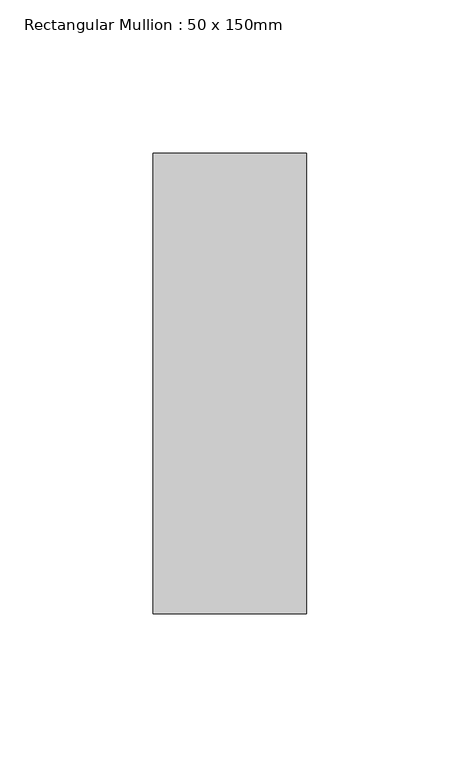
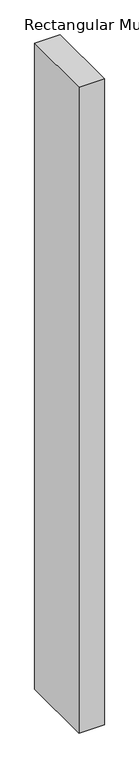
"""IFC4 building model written with IfcOpenShell, lengths in millimetres: member geometry, Rectangular Mullion : 50 x 150mm."""

from ifc_helpers import new_model, si_unit, frame, origin, place, context, project, spatial, polyline, outline, extrude, source, transform, mapped, element, save


def rectangular_mullion_50_x_150mm_4fcc4482(model_context):
    return source(origin(), model_context, "Body", "SweptSolid", [
        extrude(outline(polyline([(0.0, 25.0), (0.0, -125.0), (-50.0, -125.0), (-50.0, 25.0), (0.0, 25.0)])), frame((0.0, 0.0, -1340.0), z_axis=(0.0, 0.0, 1.0), x_axis=(1.0, 0.0, 0.0)), (0.0, 0.0, 1.0), 1340.0),
    ])


if __name__ == "__main__":
    model = new_model("IFC4")
    model_context = context("Model", 3, world=origin())
    ifc_project = project(units=[si_unit("LENGTHUNIT", "METRE", prefix="MILLI")], contexts=[model_context])
    site = spatial("IfcSite", under=ifc_project)
    building = spatial("IfcBuilding", under=site)
    placement = place(None, origin())
    rectangular_mullion_50_x_150mm_shape = rectangular_mullion_50_x_150mm_4fcc4482(model_context)
    element("IfcMember", 1, ObjectType="Rectangular Mullion : 50 x 150mm", at=placement, inside=building, context=model_context, shape_type="MappedRepresentation", body=[
        mapped(rectangular_mullion_50_x_150mm_shape, transform((0.0, 0.0, 0.0), x_axis=(1.0, 0.0, 0.0), y_axis=(0.0, 1.0, 0.0), z_axis=(0.0, 0.0, 1.0))),
    ])
    save(model, "model.ifc")
